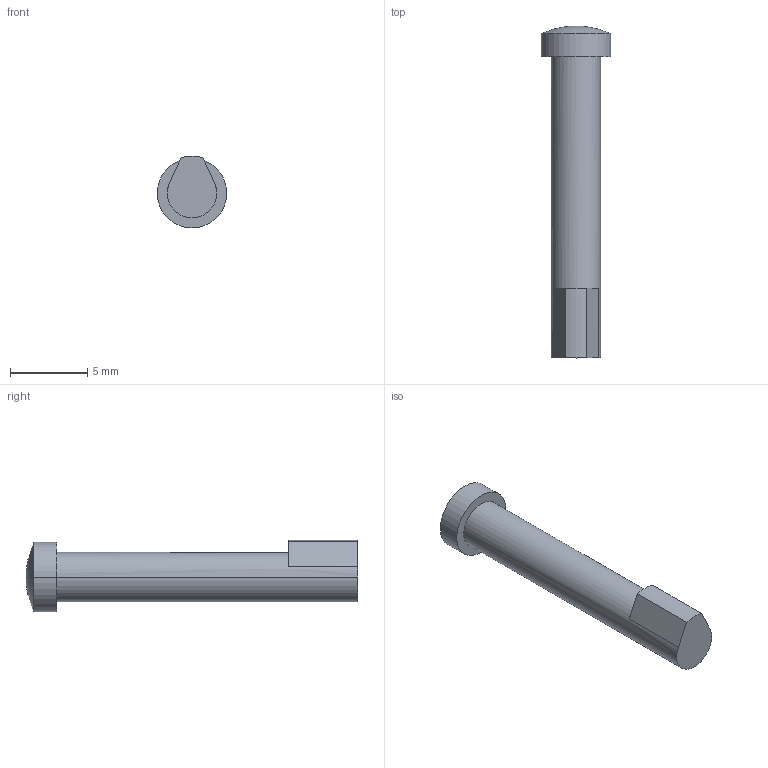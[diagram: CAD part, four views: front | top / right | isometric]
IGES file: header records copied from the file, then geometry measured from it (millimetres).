
Start section:  PTC IGES file: 64001222_button_gp_cc6_sbc.igs
Global section: file name: 64001222_button_gp_cc6_sbc.igs; native system: Creo Parametric by Parametric Technology Corporation; preprocessor: 2014090; author: mlarsen; organization: Unknown; date: 20150204.124135; units: millimetre
Bounding box: 4.5 x 21.5 x 4.65 mm (x, y, z)
Volume: 192.1 mm3; surface area: 259.2 mm2
Topology: 1 solids, 1 shells, 12 faces, 28 edges, 17 vertices
Faces by surface type: revolution 7, bspline 5
